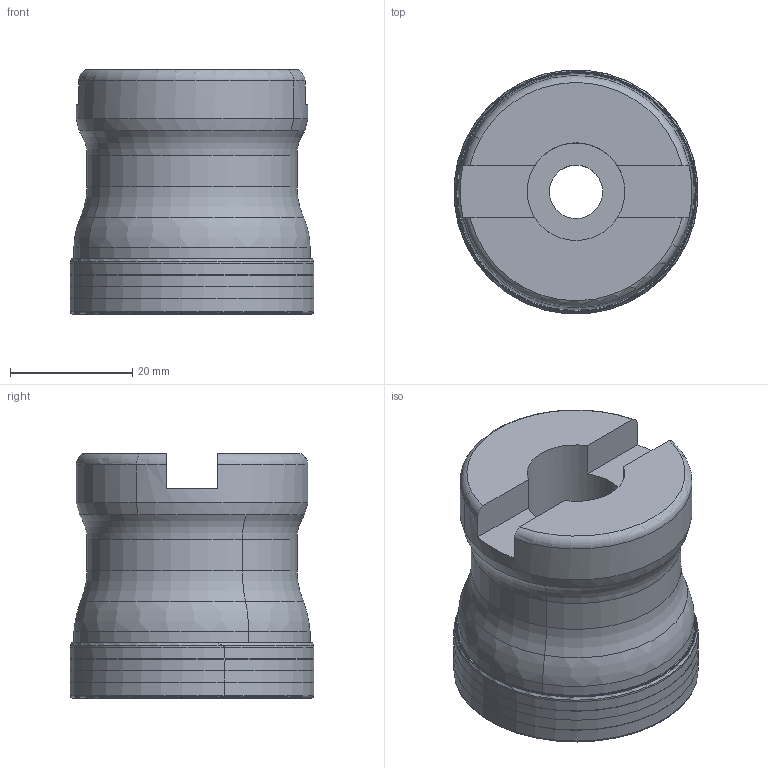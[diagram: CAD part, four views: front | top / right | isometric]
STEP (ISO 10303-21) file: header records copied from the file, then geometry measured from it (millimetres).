
FILE_DESCRIPTION(('CATIA V5 STEP','CAx-IF Rec.Pracs.--- Model Styling and Organization---1.2---2011-12-15'),'2;1');
FILE_NAME('N:\data\isr\design\special1\users\EVA_U\Requests\NPA\3106655_H690 F90AX D040-5-16-10\H690 F90AX D040-5-16-10.stp','2015-09-25T04:51:47+00:00',('none'),('none'),'CATIA Version 5 Release 21 SP 5 (IN-10)','CATIA V5 STEP AP214','none');
FILE_SCHEMA(('AUTOMOTIVE_DESIGN { 1 0 10303 214 1 1 1 1 }'));
Length unit declared in the file: millimetre
Products named in the file (1): H690 F90AX D040-5-16-10
Bounding box: 39.88 x 39.88 x 40 mm (x, y, z)
Volume: 38918.8 mm3; surface area: 11430.8 mm2
Topology: 2 solids, 2 shells, 117 faces, 254 edges, 140 vertices
Faces by surface type: revolution 68, cylinder 18, torus 16, plane 11, cone 4
Entity records: 3526 total; most frequent: CARTESIAN_POINT 1244, ORIENTED_EDGE 508, DIRECTION 298, EDGE_CURVE 254, AXIS2_PLACEMENT_3D 166, B_SPLINE_CURVE_WITH_KNOTS 146, VERTEX_POINT 140, CIRCLE 138
